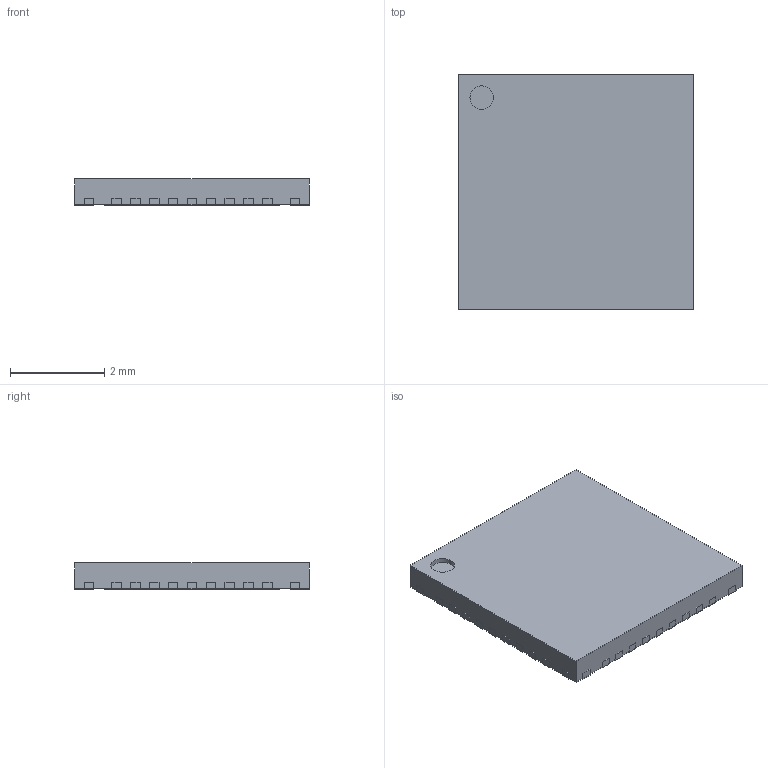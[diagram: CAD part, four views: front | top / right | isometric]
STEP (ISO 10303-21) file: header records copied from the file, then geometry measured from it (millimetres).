
FILE_DESCRIPTION(('FreeCAD Model'),'2;1');
FILE_NAME('Open CASCADE Shape Model','2021-08-21T02:31:35',('Author'),( ''),'Open CASCADE STEP processor 7.5','FreeCAD','Unknown');
FILE_SCHEMA(('AUTOMOTIVE_DESIGN { 1 0 10303 214 1 1 1 1 }'));
Length unit declared in the file: millimetre
Products named in the file (12): UQFN-36_5x5x0.4_MCH; Array (Mirror #2); Array (Mirror #3); Anchor1; Anchor002; Anchor003; Anchor004; PackageBody; ExposedPad; Array; Pad; Array (Mirror #1)
Assembly tree (19 placements, depth 3):
  UQFN-36_5x5x0.4_MCH
    Array (Mirror #2)
    Array (Mirror #3)
    Anchor1
    Anchor002
    Anchor003
    Anchor004
    PackageBody
    ExposedPad
    Array
      Pad  x9
    Array (Mirror #1)
Bounding box: 5 x 5 x 0.56 mm (x, y, z)
Surface area: 103.9 mm2
Topology: 42 solids, 42 shells, 272 faces, 2505 edges, 12038 vertices
Faces by surface type: plane 234, cylinder 38
Full cylindrical faces by diameter (mm): 0.5 x1
Entity records: 43755 total; most frequent: CARTESIAN_POINT 14627, DIRECTION 3281, LINE 2025, VECTOR 2025, GEOMETRIC_CURVE_SET 1947, TRIMMED_CURVE 1944, SURFACE_STYLE_USAGE 1555, SURFACE_SIDE_STYLE 1555
